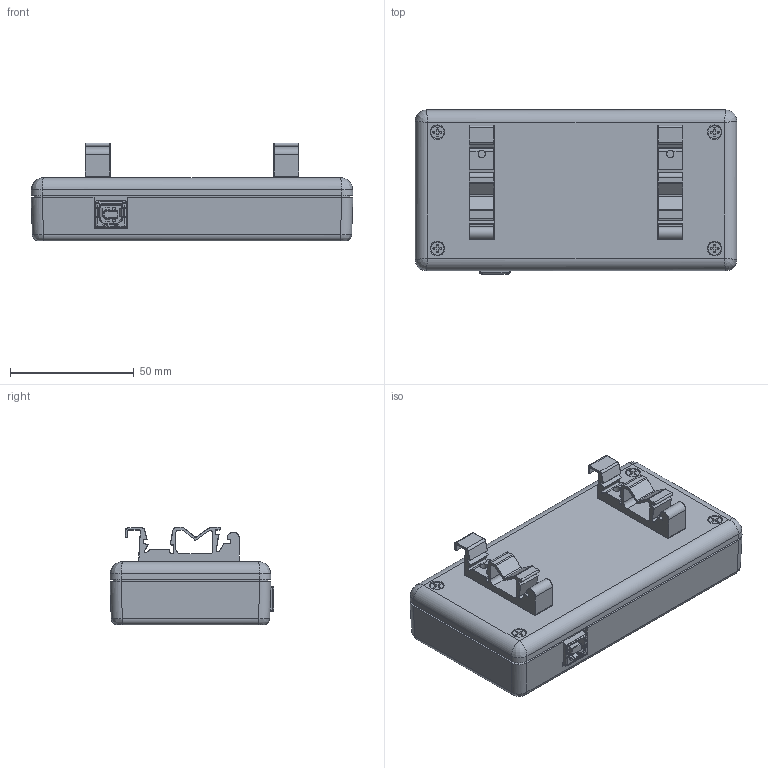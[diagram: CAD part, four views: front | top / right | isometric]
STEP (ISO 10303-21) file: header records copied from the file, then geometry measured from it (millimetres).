
FILE_DESCRIPTION (( 'STEP AP214' ), '1' );
FILE_NAME ('ADU 200, DIN.STEP', '2026-03-26T19:36:49', ( '' ), ( '' ), 'SwSTEP 2.0', 'SolidWorks 2015', '' );
FILE_SCHEMA (( 'AUTOMOTIVE_DESIGN' ));
Length unit declared in the file: inch
Products named in the file (17): USB; Wieland_25.163.0253.0_CAD STEP data; 1599BBK; ADU 200, DIN; 1427DINCLIP
Assembly tree (12 placements, depth 2):
  USB
  Wieland_25.163.0253.0_CAD STEP data
  Wieland_25.163.0253.0_CAD STEP data
  Wieland_25.163.0253.0_CAD STEP data
  Wieland_25.163.0253.0_CAD STEP data
Bounding box: 130 x 66.27 x 39.5 mm (x, y, z)
Volume: 75748.2 mm3; surface area: 70246.6 mm2
Topology: 20 solids, 21 shells, 3074 faces, 8182 edges, 5250 vertices
Faces by surface type: plane 1661, cylinder 765, bspline 572, cone 76
Full cylindrical faces by diameter (mm): 2.464 x4, 2.5 x12, 2.75 x12, 2.88 x4, 3 x4, 3.556 x4, 3.81 x12, 3.912 x4, 4 x16, 4.5 x4, 5.33 x4, 5.85 x4
Entity records: 105367 total; most frequent: CARTESIAN_POINT 30440, ORIENTED_EDGE 11882, DIRECTION 9273, EDGE_CURVE 5945, VERTEX_POINT 3882, VECTOR 3679, LINE 3679, AXIS2_PLACEMENT_3D 2797
